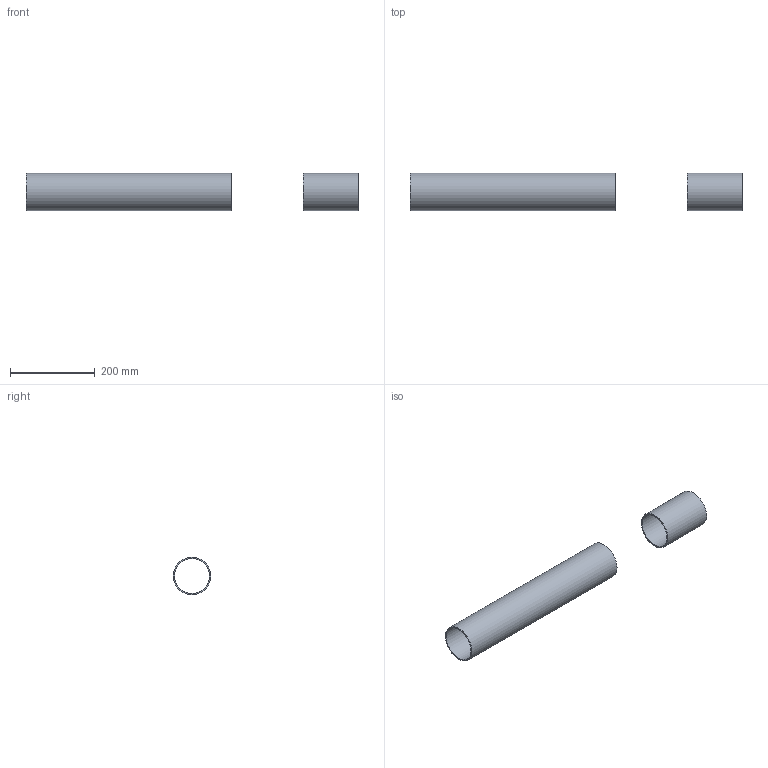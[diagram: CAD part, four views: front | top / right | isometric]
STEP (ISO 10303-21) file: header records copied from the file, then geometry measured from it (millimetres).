
FILE_DESCRIPTION(('Open CASCADE Model'),'2;1');
FILE_NAME('Open CASCADE Shape Model','2026-09-07T11:14:07',('Author'),( 'Open CASCADE'),'Open CASCADE STEP processor 7.9','Open CASCADE 7.9' ,'Unknown');
FILE_SCHEMA(('AUTOMOTIVE_DESIGN { 1 0 10303 214 1 1 1 1 }'));
Length unit declared in the file: millimetre
Products named in the file (3): Open CASCADE STEP translator 7.9 17; Open CASCADE STEP translator 7.9 17.1; Open CASCADE STEP translator 7.9 17.2
Assembly tree (2 placements, depth 2):
  Open CASCADE STEP translator 7.9 17
    Open CASCADE STEP translator 7.9 17.1
    Open CASCADE STEP translator 7.9 17.2
Bounding box: 785.7 x 88.9 x 88.9 mm (x, y, z)
Volume: 506476.3 mm3; surface area: 335406 mm2
Topology: 2 solids, 2 shells, 8 faces, 12 edges, 8 vertices
Faces by surface type: cylinder 4, plane 4
Full cylindrical faces by diameter (mm): 82.8 x2, 88.9 x2
Entity records: 392 total; most frequent: DIRECTION 66, CARTESIAN_POINT 55, ORIENTED_EDGE 24, PCURVE 24, DEFINITIONAL_REPRESENTATION 24, LINE 20, VECTOR 20, AXIS2_PLACEMENT_3D 19
